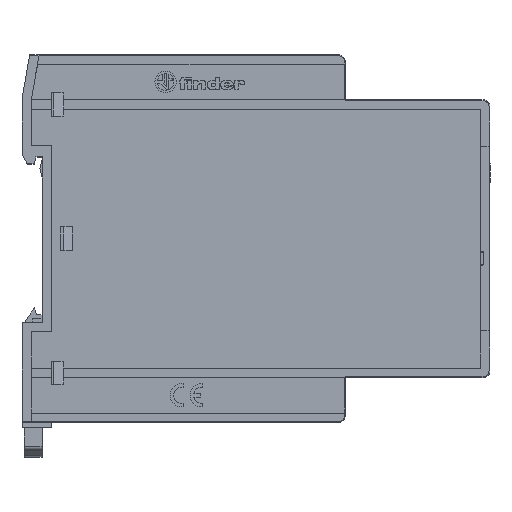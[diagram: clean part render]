
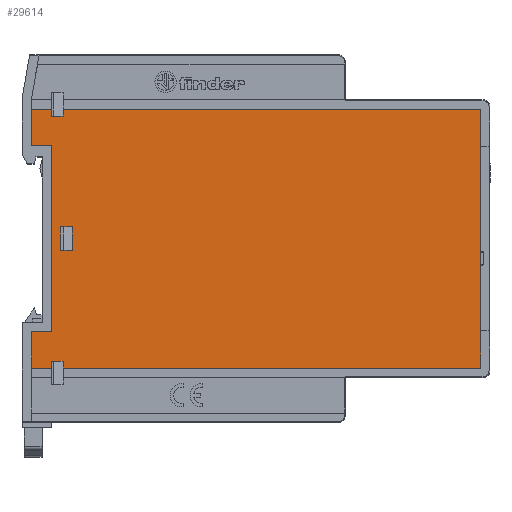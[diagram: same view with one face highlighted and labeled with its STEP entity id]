
A CAD part, top view. The second image highlights one B-rep face of the part: STEP entity #29614.
In plain terms, the highlighted planar face has unit normal (0, 0, 1).
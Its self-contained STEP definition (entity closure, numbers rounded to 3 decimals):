
#1284=ORIENTED_EDGE('',*,*,#8241,.F.);
#1285=ORIENTED_EDGE('',*,*,#8242,.T.);
#1286=ORIENTED_EDGE('',*,*,#8243,.F.);
#1287=ORIENTED_EDGE('',*,*,#8244,.T.);
#1288=ORIENTED_EDGE('',*,*,#8245,.F.);
#1289=ORIENTED_EDGE('',*,*,#8246,.T.);
#1290=ORIENTED_EDGE('',*,*,#8247,.F.);
#1291=ORIENTED_EDGE('',*,*,#8248,.T.);
#1292=ORIENTED_EDGE('',*,*,#8249,.F.);
#1293=ORIENTED_EDGE('',*,*,#8250,.T.);
#1294=ORIENTED_EDGE('',*,*,#8251,.F.);
#1295=ORIENTED_EDGE('',*,*,#8252,.T.);
#1296=ORIENTED_EDGE('',*,*,#8238,.T.);
#1297=ORIENTED_EDGE('',*,*,#8253,.T.);
#1298=ORIENTED_EDGE('',*,*,#8254,.F.);
#1299=ORIENTED_EDGE('',*,*,#8255,.F.);
#1300=ORIENTED_EDGE('',*,*,#8256,.T.);
#1301=ORIENTED_EDGE('',*,*,#8257,.F.);
#1302=ORIENTED_EDGE('',*,*,#8258,.F.);
#1303=ORIENTED_EDGE('',*,*,#8259,.F.);
#8238=EDGE_CURVE('',#13185,#13184,#17096,.T.);
#8241=EDGE_CURVE('',#13187,#13188,#17099,.T.);
#8242=EDGE_CURVE('',#13187,#13189,#17100,.T.);
#8243=EDGE_CURVE('',#13190,#13189,#17101,.T.);
#8244=EDGE_CURVE('',#13190,#13191,#17102,.T.);
#8245=EDGE_CURVE('',#13192,#13191,#17103,.T.);
#8246=EDGE_CURVE('',#13192,#13193,#17104,.T.);
#8247=EDGE_CURVE('',#13194,#13193,#17105,.T.);
#8248=EDGE_CURVE('',#13194,#13195,#17106,.T.);
#8249=EDGE_CURVE('',#13196,#13195,#17107,.T.);
#8250=EDGE_CURVE('',#13196,#13197,#17108,.T.);
#8251=EDGE_CURVE('',#13198,#13197,#17109,.T.);
#8252=EDGE_CURVE('',#13198,#13185,#17110,.T.);
#8253=EDGE_CURVE('',#13184,#13199,#17111,.T.);
#8254=EDGE_CURVE('',#13200,#13199,#17112,.T.);
#8255=EDGE_CURVE('',#13188,#13200,#17113,.T.);
#8256=EDGE_CURVE('',#13201,#13202,#17114,.T.);
#8257=EDGE_CURVE('',#13203,#13202,#17115,.T.);
#8258=EDGE_CURVE('',#13204,#13203,#17116,.T.);
#8259=EDGE_CURVE('',#13201,#13204,#17117,.T.);
#13184=VERTEX_POINT('',#41959);
#13185=VERTEX_POINT('',#41961);
#13187=VERTEX_POINT('',#41967);
#13188=VERTEX_POINT('',#41968);
#13189=VERTEX_POINT('',#41970);
#13190=VERTEX_POINT('',#41972);
#13191=VERTEX_POINT('',#41974);
#13192=VERTEX_POINT('',#41976);
#13193=VERTEX_POINT('',#41978);
#13194=VERTEX_POINT('',#41980);
#13195=VERTEX_POINT('',#41982);
#13196=VERTEX_POINT('',#41984);
#13197=VERTEX_POINT('',#41986);
#13198=VERTEX_POINT('',#41988);
#13199=VERTEX_POINT('',#41991);
#13200=VERTEX_POINT('',#41993);
#13201=VERTEX_POINT('',#41996);
#13202=VERTEX_POINT('',#41997);
#13203=VERTEX_POINT('',#41999);
#13204=VERTEX_POINT('',#42001);
#17096=LINE('',#41960,#21545);
#17099=LINE('',#41966,#21548);
#17100=LINE('',#41969,#21549);
#17101=LINE('',#41971,#21550);
#17102=LINE('',#41973,#21551);
#17103=LINE('',#41975,#21552);
#17104=LINE('',#41977,#21553);
#17105=LINE('',#41979,#21554);
#17106=LINE('',#41981,#21555);
#17107=LINE('',#41983,#21556);
#17108=LINE('',#41985,#21557);
#17109=LINE('',#41987,#21558);
#17110=LINE('',#41989,#21559);
#17111=LINE('',#41990,#21560);
#17112=LINE('',#41992,#21561);
#17113=LINE('',#41994,#21562);
#17114=LINE('',#41995,#21563);
#17115=LINE('',#41998,#21564);
#17116=LINE('',#42000,#21565);
#17117=LINE('',#42002,#21566);
#21545=VECTOR('',#33947,1000.);
#21548=VECTOR('',#33952,1000.);
#21549=VECTOR('',#33953,1000.);
#21550=VECTOR('',#33954,1000.);
#21551=VECTOR('',#33955,1000.);
#21552=VECTOR('',#33956,1000.);
#21553=VECTOR('',#33957,1000.);
#21554=VECTOR('',#33958,1000.);
#21555=VECTOR('',#33959,1000.);
#21556=VECTOR('',#33960,1000.);
#21557=VECTOR('',#33961,1000.);
#21558=VECTOR('',#33962,1000.);
#21559=VECTOR('',#33963,1000.);
#21560=VECTOR('',#33964,1000.);
#21561=VECTOR('',#33965,1000.);
#21562=VECTOR('',#33966,1000.);
#21563=VECTOR('',#33967,1000.);
#21564=VECTOR('',#33968,1000.);
#21565=VECTOR('',#33969,1000.);
#21566=VECTOR('',#33970,1000.);
#25821=EDGE_LOOP('',(#1284,#1285,#1286,#1287,#1288,#1289,#1290,#1291,#1292,
#1293,#1294,#1295,#1296,#1297,#1298,#1299));
#25822=EDGE_LOOP('',(#1300,#1301,#1302,#1303));
#27176=FACE_BOUND('',#25821,.T.);
#27177=FACE_BOUND('',#25822,.T.);
#28517=PLANE('',#31823);
#29614=ADVANCED_FACE('',(#27176,#27177),#28517,.T.);
#31823=AXIS2_PLACEMENT_3D('',#41965,#33950,#33951);
#33947=DIRECTION('',(0.,1.,0.));
#33950=DIRECTION('',(0.,0.,1.));
#33951=DIRECTION('',(1.,0.,0.));
#33952=DIRECTION('',(0.,-1.,0.));
#33953=DIRECTION('',(-1.,0.,0.));
#33954=DIRECTION('',(0.,1.,0.));
#33955=DIRECTION('',(1.,0.,0.));
#33956=DIRECTION('',(0.,1.,0.));
#33957=DIRECTION('',(-1.,0.,0.));
#33958=DIRECTION('',(0.,1.,0.));
#33959=DIRECTION('',(1.,0.,0.));
#33960=DIRECTION('',(0.,-1.,0.));
#33961=DIRECTION('',(1.,0.,0.));
#33962=DIRECTION('',(0.,1.,0.));
#33963=DIRECTION('',(1.,0.,0.));
#33964=DIRECTION('',(-1.,0.,0.));
#33965=DIRECTION('',(0.,1.,0.));
#33966=DIRECTION('',(1.,0.,0.));
#33967=DIRECTION('',(1.,0.,0.));
#33968=DIRECTION('',(0.,1.,0.));
#33969=DIRECTION('',(1.,0.,0.));
#33970=DIRECTION('',(0.,-1.,0.));
#41959=CARTESIAN_POINT('',(48.,27.75,22.5));
#41960=CARTESIAN_POINT('',(48.,-27.75,22.5));
#41961=CARTESIAN_POINT('',(48.,-27.75,22.5));
#41965=CARTESIAN_POINT('',(-50.188,28.787,22.5));
#41966=CARTESIAN_POINT('',(-44.,27.75,22.5));
#41967=CARTESIAN_POINT('',(-44.,27.75,22.5));
#41968=CARTESIAN_POINT('',(-44.,26.25,22.5));
#41969=CARTESIAN_POINT('',(-43.243,27.75,22.5));
#41970=CARTESIAN_POINT('',(-48.3,27.75,22.5));
#41971=CARTESIAN_POINT('',(-48.3,20.,22.5));
#41972=CARTESIAN_POINT('',(-48.3,20.,22.5));
#41973=CARTESIAN_POINT('',(-48.3,20.,22.5));
#41974=CARTESIAN_POINT('',(-44.,20.,22.5));
#41975=CARTESIAN_POINT('',(-44.,-20.,22.5));
#41976=CARTESIAN_POINT('',(-44.,-20.,22.5));
#41977=CARTESIAN_POINT('',(-44.,-20.,22.5));
#41978=CARTESIAN_POINT('',(-48.3,-20.,22.5));
#41979=CARTESIAN_POINT('',(-48.3,-27.75,22.5));
#41980=CARTESIAN_POINT('',(-48.3,-27.75,22.5));
#41981=CARTESIAN_POINT('',(-48.3,-27.75,22.5));
#41982=CARTESIAN_POINT('',(-44.,-27.75,22.5));
#41983=CARTESIAN_POINT('',(-44.,-26.25,22.5));
#41984=CARTESIAN_POINT('',(-44.,-26.25,22.5));
#41985=CARTESIAN_POINT('',(-44.,-26.25,22.5));
#41986=CARTESIAN_POINT('',(-41.5,-26.25,22.5));
#41987=CARTESIAN_POINT('',(-41.5,-27.75,22.5));
#41988=CARTESIAN_POINT('',(-41.5,-27.75,22.5));
#41989=CARTESIAN_POINT('',(-41.5,-27.75,22.5));
#41990=CARTESIAN_POINT('',(48.,27.75,22.5));
#41991=CARTESIAN_POINT('',(-41.5,27.75,22.5));
#41992=CARTESIAN_POINT('',(-41.5,26.25,22.5));
#41993=CARTESIAN_POINT('',(-41.5,26.25,22.5));
#41994=CARTESIAN_POINT('',(-44.,26.25,22.5));
#41995=CARTESIAN_POINT('',(-42.,2.5,22.5));
#41996=CARTESIAN_POINT('',(-42.,2.5,22.5));
#41997=CARTESIAN_POINT('',(-39.5,2.5,22.5));
#41998=CARTESIAN_POINT('',(-39.5,-2.5,22.5));
#41999=CARTESIAN_POINT('',(-39.5,-2.5,22.5));
#42000=CARTESIAN_POINT('',(-42.,-2.5,22.5));
#42001=CARTESIAN_POINT('',(-42.,-2.5,22.5));
#42002=CARTESIAN_POINT('',(-42.,2.5,22.5));
